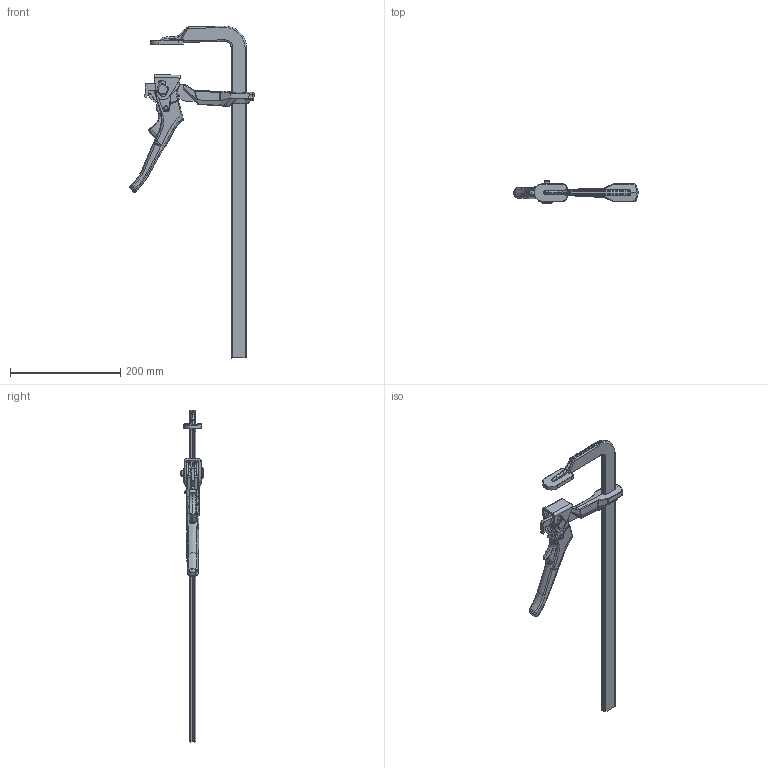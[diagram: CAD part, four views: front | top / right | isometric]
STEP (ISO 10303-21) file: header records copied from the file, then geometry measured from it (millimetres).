
FILE_DESCRIPTION( ('This file contains a STEP AP42 implementation' ,'as created by ZW3D STEP Interface translator.') ,'2;1' );
FILE_NAME( 'GH50_LC20_mod.stp' ,'15 410.145932', (''), ('ZWCAD Software Co.'), 'Version 1.0', 'ZW3D to STEP translator', '' );
FILE_SCHEMA( ('CONFIG_CONTROL_DESIGN') );
Length unit declared in the file: millimetre
Products named in the file (20): 0; GH50_LC20_mod; GZ50_Festbügel_28x11; Gleitb_kpl_GH40; GH40_Gleitbügel; 3100424e_Sperrkl_kpl_G30HN; 3007785e_Uberz-G30H; 3002642-3dick; 3002642-3dick_1_Spiegeln; HebelmExzG30HN; 3002635b_Hebel G30HN; 3002634h - Hebel Rohlg G30HN; Exz_re_G30HN_1_Spiegel; Exz_re_G30HN_1_Spiegel_1_Spieg; 3002943b_Druckk_G30HN_vz; 3002942d-Druck-Rohl-G30HN; 3002708e_Bolzen A12 G30HN; 3003364b_Bolzenø5x26; Wellensicherungø5_2_Spiegeln; Wellensicherungø10
Assembly tree (18 placements, depth 5):
  0
  GH50_LC20_mod
    GZ50_Festbügel_28x11
    Gleitb_kpl_GH40
      GH40_Gleitbügel
      3100424e_Sperrkl_kpl_G30HN
        3007785e_Uberz-G30H
        3002642-3dick
        3002642-3dick_1_Spiegeln
      HebelmExzG30HN
        3002635b_Hebel G30HN
          3002634h - Hebel Rohlg G30HN
        Exz_re_G30HN_1_Spiegel
        Exz_re_G30HN_1_Spiegel_1_Spieg
      3002943b_Druckk_G30HN_vz
        3002942d-Druck-Rohl-G30HN
      3002708e_Bolzen A12 G30HN
      3003364b_Bolzenø5x26
      Wellensicherungø5_2_Spiegeln
      Wellensicherungø10
Bounding box: 225.63 x 42 x 602.88 mm (x, y, z)
Volume: 370605.5 mm3; surface area: 130075.7 mm2
Topology: 14 solids, 14 shells, 977 faces, 2450 edges, 1484 vertices
Faces by surface type: bspline 977
Entity records: 52203 total; most frequent: CARTESIAN_POINT 36949, ORIENTED_EDGE 4868, EDGE_CURVE 2432, B_SPLINE_CURVE_WITH_KNOTS 1540, VERTEX_POINT 1484, EDGE_LOOP 1021, FACE_OUTER_BOUND 977, ADVANCED_FACE 977
